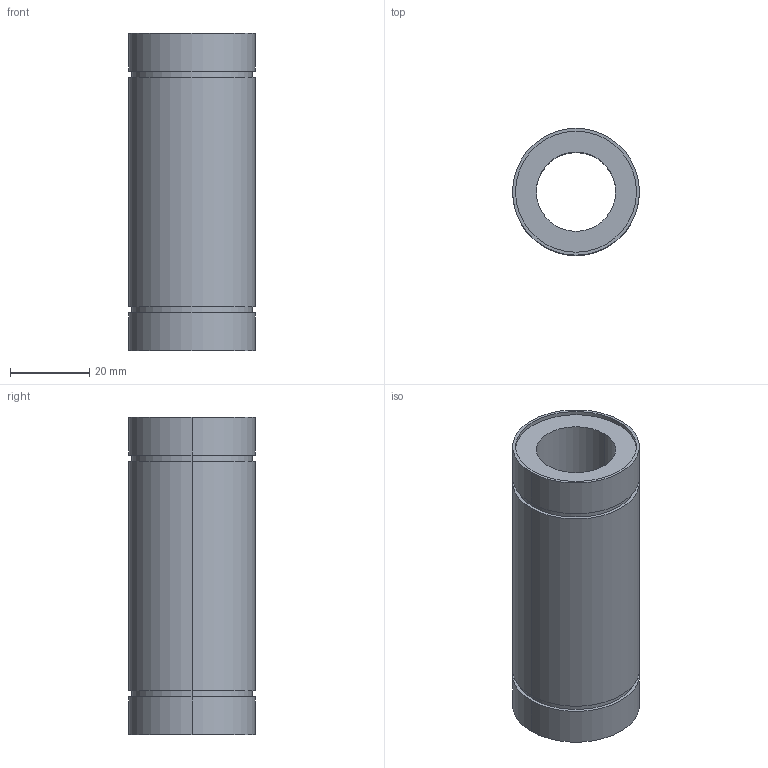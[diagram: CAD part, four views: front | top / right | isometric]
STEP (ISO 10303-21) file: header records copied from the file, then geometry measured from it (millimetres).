
FILE_DESCRIPTION((''),'2;1');
FILE_NAME('C:\Documents and Settings\ｿﾀﾀ蠑ｷ1\ｹﾙﾅﾁ ﾈｭｸ饅\ｺﾎﾇｰﾆﾄﾀﾏ\ﾁｦﾇｰ\LME__LUU\LME20LUU.stp','2005-06-14T18:37:13',('ｿﾀﾀ蠑ｷ1'),(''),'Autodesk Inventor 9','Autodesk Inventor 9','');
FILE_SCHEMA(('AUTOMOTIVE_DESIGN { 1 0 10303 214 1 1 1 1 }'));
Length unit declared in the file: millimetre
Products named in the file (1): LME__
Bounding box: 32 x 32 x 80 mm (x, y, z)
Volume: 38108 mm3; surface area: 14430.8 mm2
Topology: 1 solids, 1 shells, 24 faces, 48 edges, 32 vertices
Faces by surface type: cylinder 16, plane 8
Entity records: 671 total; most frequent: DIRECTION 130, CARTESIAN_POINT 105, ORIENTED_EDGE 96, AXIS2_PLACEMENT_3D 57, EDGE_CURVE 48, VERTEX_POINT 32, CIRCLE 32, EDGE_LOOP 32
